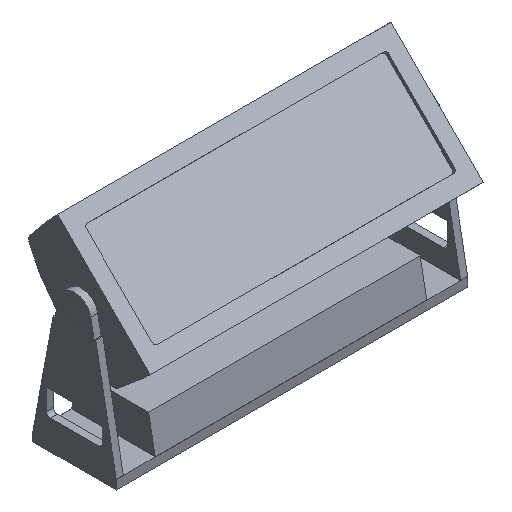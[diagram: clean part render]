
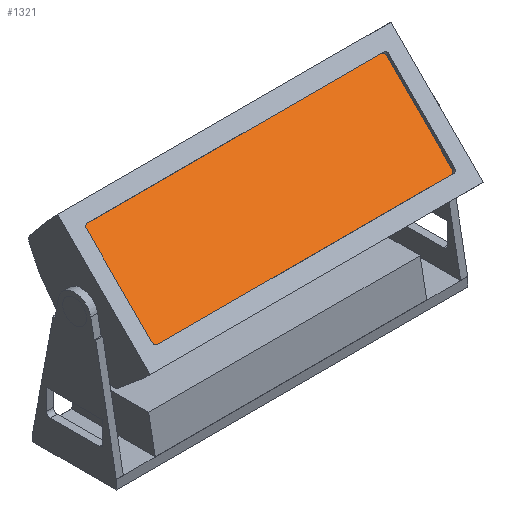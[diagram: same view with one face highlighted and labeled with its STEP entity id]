
A CAD part, isometric view. The second image highlights one B-rep face of the part: STEP entity #1321.
In plain terms, the highlighted planar face has unit normal (0, -0.707, 0.707) as drawn and (0, -1, 0) by its records, which use the part's own axes.
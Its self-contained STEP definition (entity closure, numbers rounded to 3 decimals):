
#77=CIRCLE('',#1490,4.7);
#78=CIRCLE('',#1491,4.7);
#79=CIRCLE('',#1492,4.7);
#80=CIRCLE('',#1493,4.7);
#138=FACE_OUTER_BOUND('',#217,.T.);
#217=EDGE_LOOP('',(#1120,#1121,#1122,#1123,#1124,#1125,#1126,#1127));
#359=LINE('',#2187,#510);
#360=LINE('',#2191,#511);
#361=LINE('',#2195,#512);
#362=LINE('',#2198,#513);
#510=VECTOR('',#1795,10.);
#511=VECTOR('',#1798,10.);
#512=VECTOR('',#1801,10.);
#513=VECTOR('',#1804,10.);
#638=VERTEX_POINT('',#2183);
#639=VERTEX_POINT('',#2184);
#640=VERTEX_POINT('',#2186);
#641=VERTEX_POINT('',#2188);
#642=VERTEX_POINT('',#2190);
#643=VERTEX_POINT('',#2192);
#644=VERTEX_POINT('',#2194);
#645=VERTEX_POINT('',#2196);
#805=EDGE_CURVE('',#638,#639,#77,.T.);
#806=EDGE_CURVE('',#640,#638,#359,.T.);
#807=EDGE_CURVE('',#641,#640,#78,.T.);
#808=EDGE_CURVE('',#642,#641,#360,.T.);
#809=EDGE_CURVE('',#643,#642,#79,.T.);
#810=EDGE_CURVE('',#644,#643,#361,.T.);
#811=EDGE_CURVE('',#645,#644,#80,.T.);
#812=EDGE_CURVE('',#639,#645,#362,.T.);
#1120=ORIENTED_EDGE('',*,*,#805,.F.);
#1121=ORIENTED_EDGE('',*,*,#806,.F.);
#1122=ORIENTED_EDGE('',*,*,#807,.F.);
#1123=ORIENTED_EDGE('',*,*,#808,.F.);
#1124=ORIENTED_EDGE('',*,*,#809,.F.);
#1125=ORIENTED_EDGE('',*,*,#810,.F.);
#1126=ORIENTED_EDGE('',*,*,#811,.F.);
#1127=ORIENTED_EDGE('',*,*,#812,.F.);
#1259=PLANE('',#1489);
#1321=ADVANCED_FACE('',(#138),#1259,.F.);
#1489=AXIS2_PLACEMENT_3D('',#2182,#1791,#1792);
#1490=AXIS2_PLACEMENT_3D('',#2185,#1793,#1794);
#1491=AXIS2_PLACEMENT_3D('',#2189,#1796,#1797);
#1492=AXIS2_PLACEMENT_3D('',#2193,#1799,#1800);
#1493=AXIS2_PLACEMENT_3D('',#2197,#1802,#1803);
#1791=DIRECTION('center_axis',(0.,1.,0.));
#1792=DIRECTION('ref_axis',(1.,0.,0.));
#1793=DIRECTION('center_axis',(0.,1.,0.));
#1794=DIRECTION('ref_axis',(1.,0.,0.));
#1795=DIRECTION('',(0.,0.,-1.));
#1796=DIRECTION('center_axis',(0.,1.,0.));
#1797=DIRECTION('ref_axis',(1.,0.,0.));
#1798=DIRECTION('',(1.,0.,0.));
#1799=DIRECTION('center_axis',(0.,1.,0.));
#1800=DIRECTION('ref_axis',(-1.,0.,0.));
#1801=DIRECTION('',(0.,0.,1.));
#1802=DIRECTION('center_axis',(0.,1.,0.));
#1803=DIRECTION('ref_axis',(-1.,0.,0.));
#1804=DIRECTION('',(-1.,0.,0.));
#2182=CARTESIAN_POINT('Origin',(246.5,143.391,-112.338));
#2183=CARTESIAN_POINT('',(462.2,143.391,-178.338));
#2184=CARTESIAN_POINT('',(457.5,143.391,-183.038));
#2185=CARTESIAN_POINT('Origin',(457.5,143.391,-178.338));
#2186=CARTESIAN_POINT('',(462.2,143.391,-46.338));
#2187=CARTESIAN_POINT('',(462.2,143.391,-178.338));
#2188=CARTESIAN_POINT('',(457.5,143.391,-41.638));
#2189=CARTESIAN_POINT('Origin',(457.5,143.391,-46.338));
#2190=CARTESIAN_POINT('',(35.5,143.391,-41.638));
#2191=CARTESIAN_POINT('',(457.5,143.391,-41.638));
#2192=CARTESIAN_POINT('',(30.8,143.391,-46.338));
#2193=CARTESIAN_POINT('Origin',(35.5,143.391,-46.338));
#2194=CARTESIAN_POINT('',(30.8,143.391,-178.338));
#2195=CARTESIAN_POINT('',(30.8,143.391,-46.338));
#2196=CARTESIAN_POINT('',(35.5,143.391,-183.038));
#2197=CARTESIAN_POINT('Origin',(35.5,143.391,-178.338));
#2198=CARTESIAN_POINT('',(35.5,143.391,-183.038));
